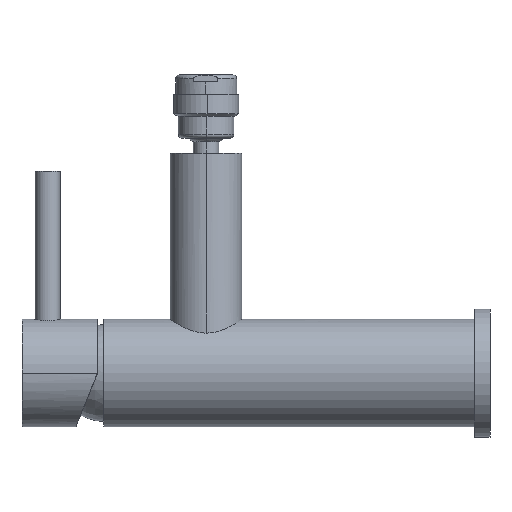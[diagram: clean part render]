
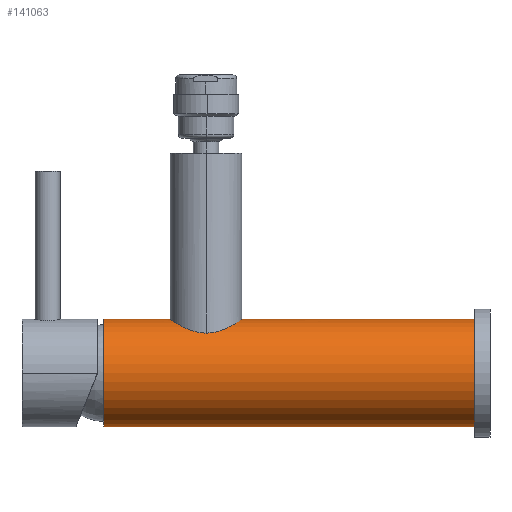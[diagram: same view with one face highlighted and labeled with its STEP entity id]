
A CAD part, left-side view. The second image highlights one B-rep face of the part: STEP entity #141063.
In plain terms, the highlighted cylindrical face has radius 21 mm (diameter 42 mm), a partial arc.
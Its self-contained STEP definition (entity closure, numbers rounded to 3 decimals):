
#444 = CARTESIAN_POINT ( 'NONE',  ( -2.258, 108.904, 20.88 ) ) ;
#3028 = CARTESIAN_POINT ( 'NONE',  ( -3.903, 102.741, 20.635 ) ) ;
#7147 = VECTOR ( 'NONE', #9137, 1000. ) ;
#9137 = DIRECTION ( 'NONE',  ( 0., -1., 0. ) ) ;
#11351 = CARTESIAN_POINT ( 'NONE',  ( -4.5, 105., 20.512 ) ) ;
#11817 = CARTESIAN_POINT ( 'NONE',  ( -1.453, 109.269, 20.951 ) ) ;
#12409 = CYLINDRICAL_SURFACE ( 'NONE', #125427, 21. ) ;
#13501 = LINE ( 'NONE', #127672, #43823 ) ;
#13888 = CARTESIAN_POINT ( 'NONE',  ( 0., 145., -21. ) ) ;
#13945 = CARTESIAN_POINT ( 'NONE',  ( 0., 100.5, 21. ) ) ;
#14475 = CARTESIAN_POINT ( 'NONE',  ( -4.27, 103.548, 20.562 ) ) ;
#17971 = VERTEX_POINT ( 'NONE', #18048 ) ;
#18048 = CARTESIAN_POINT ( 'NONE',  ( 0., 109.5, 21. ) ) ;
#19546 = FACE_OUTER_BOUND ( 'NONE', #112593, .T. ) ;
#20950 = CARTESIAN_POINT ( 'NONE',  ( -4.5, 105., 20.512 ) ) ;
#21574 = ORIENTED_EDGE ( 'NONE', *, *, #94362, .F. ) ;
#22772 = CARTESIAN_POINT ( 'NONE',  ( -4.471, 105.587, 20.519 ) ) ;
#22838 = VECTOR ( 'NONE', #90084, 1000. ) ;
#23172 = AXIS2_PLACEMENT_3D ( 'NONE', #66916, #146800, #78409 ) ;
#23301 = CARTESIAN_POINT ( 'NONE',  ( -0.593, 109.47, 20.994 ) ) ;
#23792 = VERTEX_POINT ( 'NONE', #36268 ) ;
#25454 = CARTESIAN_POINT ( 'NONE',  ( -0.594, 100.53, 20.994 ) ) ;
#25919 = CARTESIAN_POINT ( 'NONE',  ( -4.471, 104.407, 20.519 ) ) ;
#34258 = CARTESIAN_POINT ( 'NONE',  ( -4.269, 106.453, 20.562 ) ) ;
#34630 = ORIENTED_EDGE ( 'NONE', *, *, #95988, .F. ) ;
#34727 = CARTESIAN_POINT ( 'NONE',  ( 0., 109.5, 21. ) ) ;
#36199 = B_SPLINE_CURVE_WITH_KNOTS ( 'NONE', 3,
 ( #11351, #113612, #22772, #102612, #34258, #114139, #45683, #125641, #57203, #137064, #68612, #444, #80087, #11817, #91589, #23301, #103107, #34727 ),
 .UNSPECIFIED., .F., .F.,
 ( 4, 2, 2, 2, 2, 2, 2, 2, 4 ),
 ( 0.014, 0.015, 0.016, 0.017, 0.018, 0.019, 0.019, 0.02, 0.021 ),
 .UNSPECIFIED. ) ;
#36268 = CARTESIAN_POINT ( 'NONE',  ( 0., 0., 21. ) ) ;
#36827 = CARTESIAN_POINT ( 'NONE',  ( -1.452, 100.73, 20.952 ) ) ;
#37371 = CARTESIAN_POINT ( 'NONE',  ( -4.5, 105., 20.512 ) ) ;
#37388 = LINE ( 'NONE', #61877, #7147 ) ;
#41719 = CARTESIAN_POINT ( 'NONE',  ( 0., 0., -21. ) ) ;
#42390 = CIRCLE ( 'NONE', #23172, 21. ) ;
#43823 = VECTOR ( 'NONE', #48749, 1000. ) ;
#43953 = EDGE_CURVE ( 'NONE', #54440, #71421, #71176, .T. ) ;
#45683 = CARTESIAN_POINT ( 'NONE',  ( -3.904, 107.258, 20.635 ) ) ;
#48028 = CARTESIAN_POINT ( 'NONE',  ( 0., 100.5, 21. ) ) ;
#48364 = CARTESIAN_POINT ( 'NONE',  ( -2.26, 101.098, 20.879 ) ) ;
#48526 = ORIENTED_EDGE ( 'NONE', *, *, #43953, .T. ) ;
#48749 = DIRECTION ( 'NONE',  ( 0., -1., 0. ) ) ;
#49330 = CIRCLE ( 'NONE', #119920, 21. ) ;
#54440 = VERTEX_POINT ( 'NONE', #48028 ) ;
#56013 = CARTESIAN_POINT ( 'NONE',  ( 0., 0., 0. ) ) ;
#57203 = CARTESIAN_POINT ( 'NONE',  ( -3.39, 107.973, 20.726 ) ) ;
#59783 = CARTESIAN_POINT ( 'NONE',  ( -2.974, 101.61, 20.789 ) ) ;
#61877 = CARTESIAN_POINT ( 'NONE',  ( 0., 145., 21. ) ) ;
#62310 = VERTEX_POINT ( 'NONE', #13888 ) ;
#66041 = ORIENTED_EDGE ( 'NONE', *, *, #97864, .T. ) ;
#66916 = CARTESIAN_POINT ( 'NONE',  ( 0., 145., 0. ) ) ;
#67451 = DIRECTION ( 'NONE',  ( 0., 0., 1. ) ) ;
#68612 = CARTESIAN_POINT ( 'NONE',  ( -2.745, 108.578, 20.821 ) ) ;
#69723 = ORIENTED_EDGE ( 'NONE', *, *, #126697, .F. ) ;
#71176 = B_SPLINE_CURVE_WITH_KNOTS ( 'NONE', 3,
 ( #13945, #93711, #25454, #105263, #36827, #116755, #48364, #128263, #59783, #139721, #71268, #3028, #82723, #14475, #94210, #25919, #105772, #37371 ),
 .UNSPECIFIED., .F., .F.,
 ( 4, 2, 2, 2, 2, 2, 2, 2, 4 ),
 ( 0.007, 0.008, 0.009, 0.01, 0.011, 0.011, 0.012, 0.013, 0.014 ),
 .UNSPECIFIED. ) ;
#71268 = CARTESIAN_POINT ( 'NONE',  ( -3.577, 102.254, 20.694 ) ) ;
#71421 = VERTEX_POINT ( 'NONE', #20950 ) ;
#74774 = DIRECTION ( 'NONE',  ( 0., 0., -1. ) ) ;
#78409 = DIRECTION ( 'NONE',  ( 0., 0., 1. ) ) ;
#78906 = CARTESIAN_POINT ( 'NONE',  ( 0., 145., 21. ) ) ;
#80087 = CARTESIAN_POINT ( 'NONE',  ( -2., 109.042, 20.906 ) ) ;
#82723 = CARTESIAN_POINT ( 'NONE',  ( -4.044, 103.005, 20.607 ) ) ;
#83495 = LINE ( 'NONE', #124632, #22838 ) ;
#90084 = DIRECTION ( 'NONE',  ( 0., -1., 0. ) ) ;
#91589 = CARTESIAN_POINT ( 'NONE',  ( -1.169, 109.355, 20.969 ) ) ;
#93711 = CARTESIAN_POINT ( 'NONE',  ( -0.294, 100.5, 21. ) ) ;
#94210 = CARTESIAN_POINT ( 'NONE',  ( -4.355, 103.829, 20.544 ) ) ;
#94362 = EDGE_CURVE ( 'NONE', #54440, #23792, #37388, .T. ) ;
#95988 = EDGE_CURVE ( 'NONE', #62310, #125032, #42390, .T. ) ;
#97864 = EDGE_CURVE ( 'NONE', #62310, #99718, #13501, .T. ) ;
#97887 = ORIENTED_EDGE ( 'NONE', *, *, #126723, .T. ) ;
#98256 = DIRECTION ( 'NONE',  ( 0., -1., 0. ) ) ;
#99718 = VERTEX_POINT ( 'NONE', #41719 ) ;
#102612 = CARTESIAN_POINT ( 'NONE',  ( -4.355, 106.171, 20.544 ) ) ;
#103107 = CARTESIAN_POINT ( 'NONE',  ( -0.297, 109.5, 21. ) ) ;
#105263 = CARTESIAN_POINT ( 'NONE',  ( -1.171, 100.645, 20.969 ) ) ;
#105772 = CARTESIAN_POINT ( 'NONE',  ( -4.5, 104.706, 20.512 ) ) ;
#112593 = EDGE_LOOP ( 'NONE', ( #69723, #34630, #66041, #144248, #21574, #48526, #97887 ) ) ;
#113612 = CARTESIAN_POINT ( 'NONE',  ( -4.5, 105.294, 20.512 ) ) ;
#114139 = CARTESIAN_POINT ( 'NONE',  ( -4.044, 106.995, 20.607 ) ) ;
#116755 = CARTESIAN_POINT ( 'NONE',  ( -1.998, 100.957, 20.907 ) ) ;
#119920 = AXIS2_PLACEMENT_3D ( 'NONE', #56013, #135934, #67451 ) ;
#124632 = CARTESIAN_POINT ( 'NONE',  ( 0., 145., 21. ) ) ;
#125032 = VERTEX_POINT ( 'NONE', #78906 ) ;
#125427 = AXIS2_PLACEMENT_3D ( 'NONE', #143203, #98256, #74774 ) ;
#125641 = CARTESIAN_POINT ( 'NONE',  ( -3.576, 107.747, 20.694 ) ) ;
#126697 = EDGE_CURVE ( 'NONE', #125032, #17971, #83495, .T. ) ;
#126723 = EDGE_CURVE ( 'NONE', #71421, #17971, #36199, .T. ) ;
#127672 = CARTESIAN_POINT ( 'NONE',  ( 0., 145., -21. ) ) ;
#128263 = CARTESIAN_POINT ( 'NONE',  ( -2.746, 101.423, 20.821 ) ) ;
#130867 = EDGE_CURVE ( 'NONE', #99718, #23792, #49330, .T. ) ;
#135934 = DIRECTION ( 'NONE',  ( 0., 1., 0. ) ) ;
#137064 = CARTESIAN_POINT ( 'NONE',  ( -2.976, 108.388, 20.789 ) ) ;
#139721 = CARTESIAN_POINT ( 'NONE',  ( -3.392, 102.028, 20.725 ) ) ;
#141063 = ADVANCED_FACE ( 'NONE', ( #19546 ), #12409, .T. ) ;
#143203 = CARTESIAN_POINT ( 'NONE',  ( 0., 145., 0. ) ) ;
#144248 = ORIENTED_EDGE ( 'NONE', *, *, #130867, .T. ) ;
#146800 = DIRECTION ( 'NONE',  ( 0., 1., 0. ) ) ;
